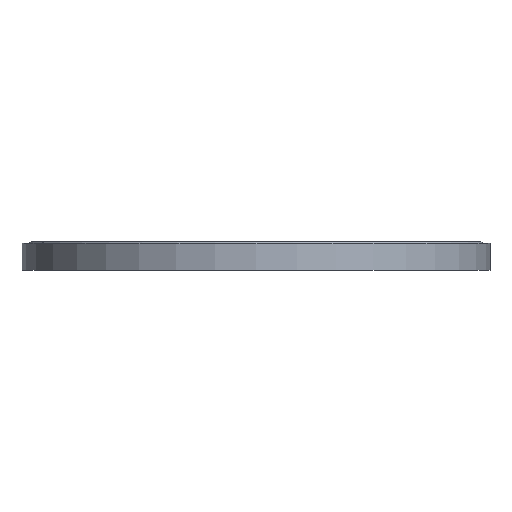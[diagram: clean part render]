
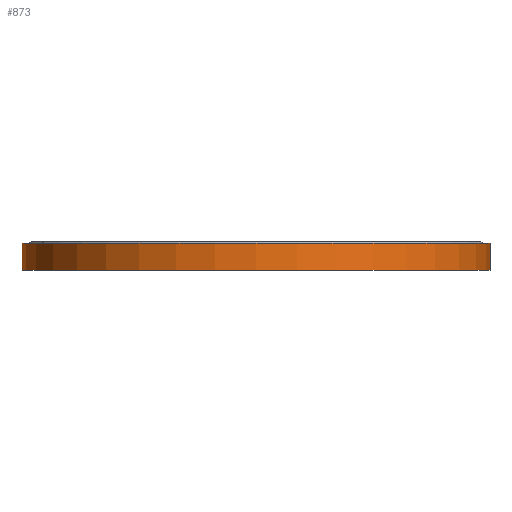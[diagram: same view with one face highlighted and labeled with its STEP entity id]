
A CAD part, front view. The second image highlights one B-rep face of the part: STEP entity #873.
In plain terms, the highlighted cylindrical face has radius 120 mm (diameter 240 mm), a partial arc.
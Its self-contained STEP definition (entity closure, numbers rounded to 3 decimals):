
#22 = CYLINDRICAL_SURFACE ( 'NONE', #195, 120. ) ;
#81 = CIRCLE ( 'NONE', #722, 120. ) ;
#114 = ORIENTED_EDGE ( 'NONE', *, *, #567, .T. ) ;
#157 = DIRECTION ( 'NONE',  ( 0., 0., 1. ) ) ;
#170 = EDGE_CURVE ( 'NONE', #690, #753, #223, .T. ) ;
#183 = EDGE_LOOP ( 'NONE', ( #366, #278, #114, #289 ) ) ;
#195 = AXIS2_PLACEMENT_3D ( 'NONE', #858, #157, #538 ) ;
#221 = CARTESIAN_POINT ( 'NONE',  ( 0., 0., 14. ) ) ;
#223 = CIRCLE ( 'NONE', #973, 120. ) ;
#278 = ORIENTED_EDGE ( 'NONE', *, *, #338, .T. ) ;
#289 = ORIENTED_EDGE ( 'NONE', *, *, #170, .F. ) ;
#313 = VERTEX_POINT ( 'NONE', #451 ) ;
#327 = LINE ( 'NONE', #371, #800 ) ;
#338 = EDGE_CURVE ( 'NONE', #452, #313, #81, .T. ) ;
#366 = ORIENTED_EDGE ( 'NONE', *, *, #931, .F. ) ;
#371 = CARTESIAN_POINT ( 'NONE',  ( -120., 0., 21.502 ) ) ;
#397 = CARTESIAN_POINT ( 'NONE',  ( 120., 0., 21.502 ) ) ;
#451 = CARTESIAN_POINT ( 'NONE',  ( 120., 0., 0. ) ) ;
#452 = VERTEX_POINT ( 'NONE', #526 ) ;
#482 = CARTESIAN_POINT ( 'NONE',  ( -120., 0., 14. ) ) ;
#504 = VECTOR ( 'NONE', #535, 1000. ) ;
#526 = CARTESIAN_POINT ( 'NONE',  ( -120., 0., 0. ) ) ;
#535 = DIRECTION ( 'NONE',  ( 0., 0., 1. ) ) ;
#538 = DIRECTION ( 'NONE',  ( 1., 0., 0. ) ) ;
#544 = CARTESIAN_POINT ( 'NONE',  ( 120., 0., 14. ) ) ;
#567 = EDGE_CURVE ( 'NONE', #313, #753, #699, .T. ) ;
#628 = DIRECTION ( 'NONE',  ( 0., 0., 1. ) ) ;
#629 = DIRECTION ( 'NONE',  ( 0., 0., 1. ) ) ;
#651 = DIRECTION ( 'NONE',  ( 0., 0., 1. ) ) ;
#690 = VERTEX_POINT ( 'NONE', #482 ) ;
#699 = LINE ( 'NONE', #397, #504 ) ;
#701 = CARTESIAN_POINT ( 'NONE',  ( 0., 0., 0. ) ) ;
#722 = AXIS2_PLACEMENT_3D ( 'NONE', #701, #628, #915 ) ;
#753 = VERTEX_POINT ( 'NONE', #544 ) ;
#777 = FACE_OUTER_BOUND ( 'NONE', #183, .T. ) ;
#800 = VECTOR ( 'NONE', #629, 1000. ) ;
#844 = DIRECTION ( 'NONE',  ( 1., 0., 0. ) ) ;
#858 = CARTESIAN_POINT ( 'NONE',  ( 0., 0., 21.502 ) ) ;
#873 = ADVANCED_FACE ( 'NONE', ( #777 ), #22, .T. ) ;
#915 = DIRECTION ( 'NONE',  ( 1., 0., 0. ) ) ;
#931 = EDGE_CURVE ( 'NONE', #452, #690, #327, .T. ) ;
#973 = AXIS2_PLACEMENT_3D ( 'NONE', #221, #651, #844 ) ;
